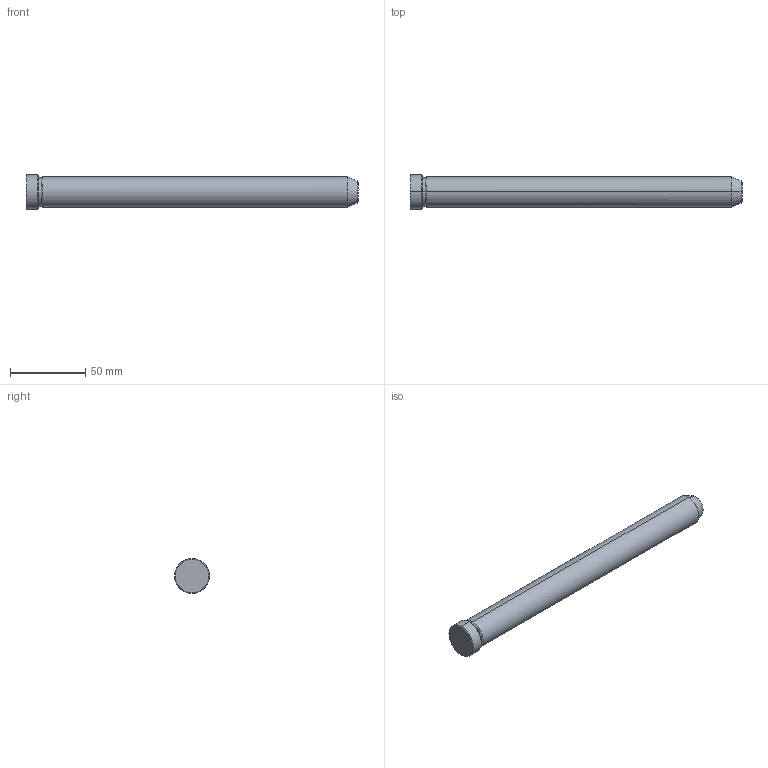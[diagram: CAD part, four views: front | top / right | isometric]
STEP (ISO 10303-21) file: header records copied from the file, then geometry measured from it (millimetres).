
FILE_DESCRIPTION(('CATIA V5 STEP Exchange'),'2;1');
FILE_NAME('C:\Users\Utente\Desktop\IO LAVORO\3D X SITO CF\X SITO\PLASTICA\549\549-20X220.stp','2021-12-11T09:49:00+00:00',('none'),('none'),'CATIA Version 5 Release 20 GA (IN-10)','CATIA V5 STEP AP203','none');
FILE_SCHEMA(('CONFIG_CONTROL_DESIGN'));
Length unit declared in the file: millimetre
Products named in the file (1): 549-20X220
Bounding box: 220 x 23 x 23 mm (x, y, z)
Volume: 69277.6 mm3; surface area: 14542.3 mm2
Topology: 1 solids, 1 shells, 19 faces, 56 edges, 40 vertices
Faces by surface type: cone 8, cylinder 6, plane 3, torus 2
Entity records: 736 total; most frequent: CARTESIAN_POINT 192, ORIENTED_EDGE 112, DIRECTION 86, EDGE_CURVE 56, AXIS2_PLACEMENT_3D 54, VERTEX_POINT 40, CIRCLE 34, EDGE_LOOP 20
